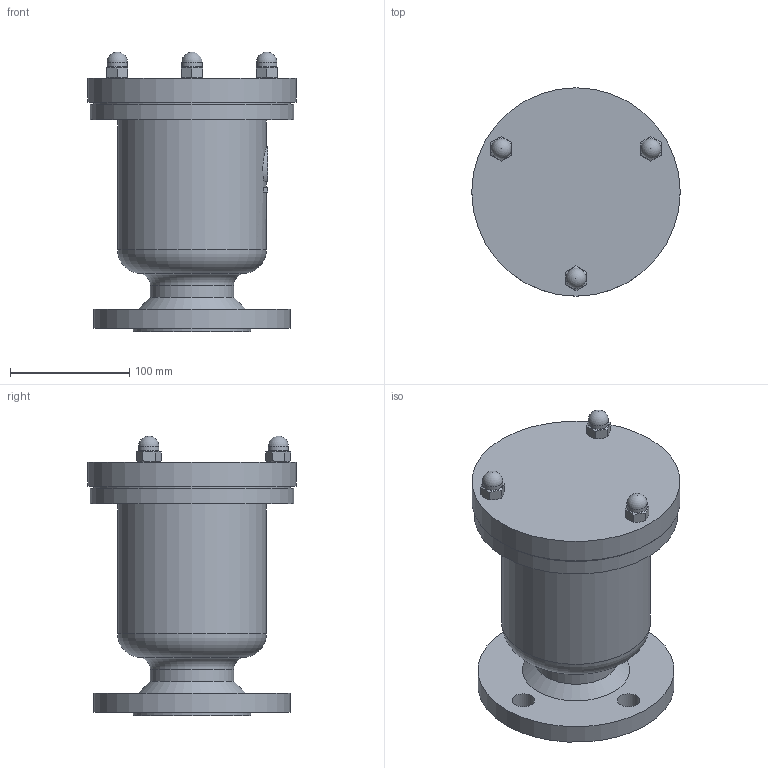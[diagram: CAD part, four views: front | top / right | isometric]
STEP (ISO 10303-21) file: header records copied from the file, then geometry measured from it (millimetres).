
FILE_DESCRIPTION(('STEP AP203'), '1');
FILE_NAME('A10F.Z DN50', '', ('UNSPECIFIED'), ('UNSPECIFIED'), 'ASCON STEP Converter 1.6', 'ASCON Math Kernel', '');
FILE_SCHEMA(('CONFIG_CONTROL_DESIGN'));
Length unit declared in the file: millimetre
Products named in the file (2): A10F.Z DN50
Assembly tree (3 placements, depth 2):
  A10F.Z DN50
    (unnamed)  x3
Bounding box: 175 x 175 x 235 mm (x, y, z)
Volume: 2501497.7 mm3; surface area: 203032.6 mm2
Topology: 1 solids, 4 shells, 85 faces, 185 edges, 118 vertices
Faces by surface type: plane 42, cylinder 25, cone 13, sphere 3, torus 2
Full cylindrical faces by diameter (mm): 10.106 x3, 17 x3, 19 x4, 50 x1, 70 x1, 99 x1, 125 x1, 165 x2, 171 x1, 175 x1
Entity records: 4972 total; most frequent: CARTESIAN_POINT 2500, DIRECTION 333, ORIENTED_EDGE 286, AXIS2_PLACEMENT_3D 146, EDGE_CURVE 143, EDGE_LOOP 138, VERTEX_POINT 111, COLOUR_RGB 87
